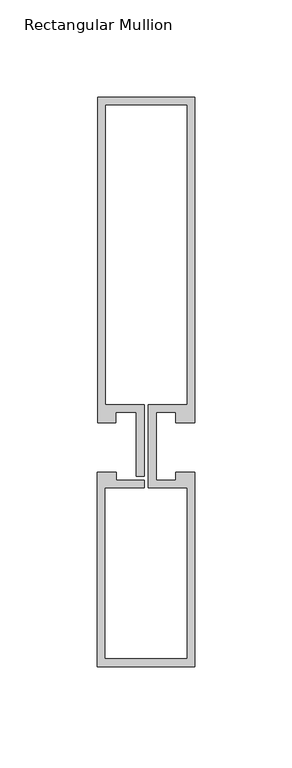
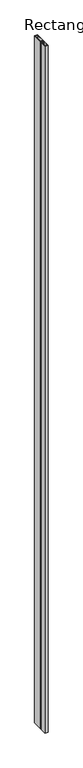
"""IFC4 building model written with IfcOpenShell, lengths in millimetres: member geometry, Rectangular Mullion : Reynaers_CW-50_Transom-Transom_167.5mm_Facecap-02D."""

from ifc_helpers import new_model, si_unit, frame, origin, place, context, project, spatial, polyline, outline, extrude, source, transform, mapped, element, save


def rectangular_mullion_d0dfcfd7(model_context):
    return source(origin(), model_context, "Body", "SweptSolid", [
        extrude(outline(polyline([(25.1995941, -12.7331291), (25.1995941, -112.7331291), (-24.994845, -112.7331291), (-24.994845, -12.7331291), (-15.2996495, -12.7331291), (-15.2996495, -16.7331291), (-0.9004059, -16.7331291), (-0.9004059, -20.7331291), (-20.994845, -20.7331291), (-20.994845, -108.7331291), (21.1995941, -108.7331291), (21.1995941, -20.7331291), (1.2995941, -20.7331291), (1.2995941, 22.1331291), (21.1995941, 22.1331291), (21.1995941, 176.2331291), (-20.8004059, 176.2331291), (-20.8004059, 22.1331291), (-0.9004059, 22.1331291), (-0.9004059, -14.7331291), (-4.9004059, -14.7331291), (-4.9004059, 18.1331291), (-15.499, 18.1331291), (-15.499, 12.7331291), (-24.8004059, 12.7331291), (-24.8004059, 180.2331291), (25.1995941, 180.2331291), (25.1995941, 12.7331291), (15.499, 12.7331291), (15.499, 18.1331291), (5.2995941, 18.1331291), (5.2995941, -16.7331291), (15.2996495, -16.7331291), (15.2996495, -12.7331291), (25.1995941, -12.7331291)])), frame((0.0, 0.0, -12000.0), z_axis=(0.0, 0.0, 1.0), x_axis=(1.0, 0.0, 0.0)), (0.0, 0.0, 1.0), 12000.0),
    ])


if __name__ == "__main__":
    model = new_model("IFC4")
    model_context = context("Model", 3, world=origin())
    ifc_project = project(units=[si_unit("LENGTHUNIT", "METRE", prefix="MILLI")], contexts=[model_context])
    site = spatial("IfcSite", under=ifc_project)
    building = spatial("IfcBuilding", under=site)
    placement = place(None, origin())
    rectangular_mullion_shape = rectangular_mullion_d0dfcfd7(model_context)
    element("IfcMember", 1, ObjectType="Rectangular Mullion : Reynaers_CW-50_Transom-Transom_167.5mm_Facecap-02D", at=placement, inside=building, context=model_context, shape_type="MappedRepresentation", body=[
        mapped(rectangular_mullion_shape, transform((0.0, 0.0, 0.0), x_axis=(1.0, 0.0, 0.0), y_axis=(0.0, 1.0, 0.0), z_axis=(0.0, 0.0, 1.0))),
    ])
    save(model, "model.ifc")
